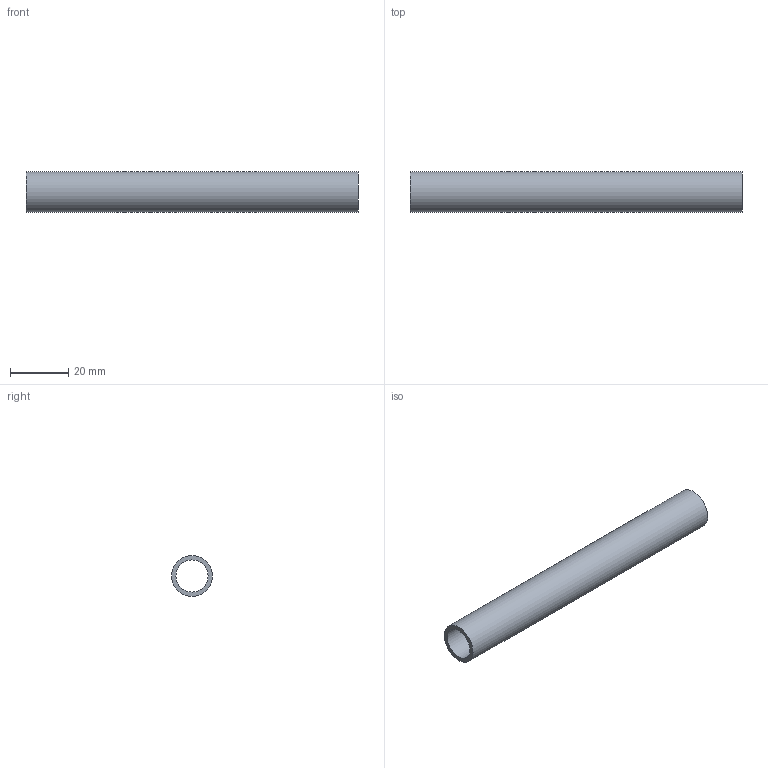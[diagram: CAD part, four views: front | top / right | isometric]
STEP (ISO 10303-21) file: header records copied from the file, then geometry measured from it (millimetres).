
FILE_DESCRIPTION (( 'STEP AP214' ), '1' );
FILE_NAME ('N25009A.step', '2024-12-03T16:26:52', ( '' ), ( '' ), 'SwSTEP 2.0', 'SolidWorks 2023', '' );
FILE_SCHEMA (( 'AUTOMOTIVE_DESIGN' ));
Length unit declared in the file: millimetre
Products named in the file (1): N25009A
Bounding box: 114 x 14 x 14 mm (x, y, z)
Volume: 6715.2 mm3; surface area: 9071.3 mm2
Topology: 1 solids, 1 shells, 4 faces, 6 edges, 4 vertices
Faces by surface type: plane 2, cylinder 2
Full cylindrical faces by diameter (mm): 11 x1, 14 x1
Entity records: 111 total; most frequent: DIRECTION 18, CARTESIAN_POINT 13, AXIS2_PLACEMENT_3D 9, ORIENTED_EDGE 8, EDGE_LOOP 8, FACE_OUTER_BOUND 6, CIRCLE 4, VERTEX_POINT 4
